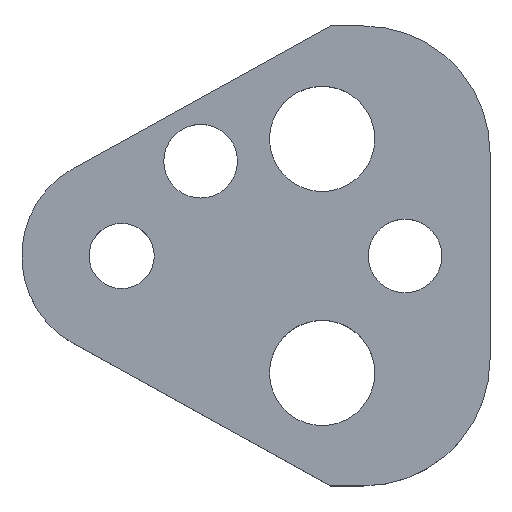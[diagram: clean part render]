
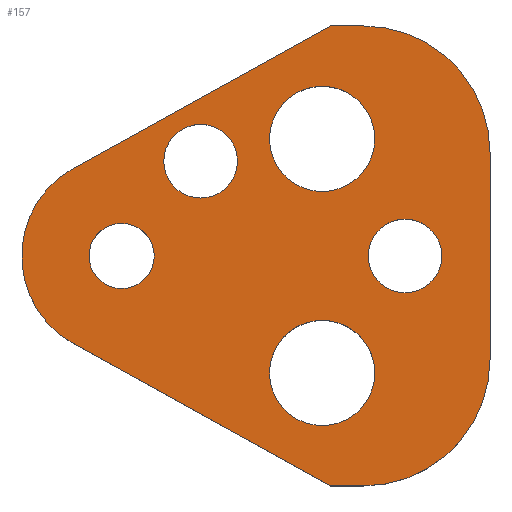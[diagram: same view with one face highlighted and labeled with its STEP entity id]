
A CAD part, top view. The second image highlights one B-rep face of the part: STEP entity #157.
In plain terms, the highlighted planar face has unit normal (0, 0, 1).
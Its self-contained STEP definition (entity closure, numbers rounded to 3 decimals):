
#103=FACE_BOUND('',#207,.T.);
#104=FACE_BOUND('',#208,.T.);
#105=FACE_BOUND('',#209,.T.);
#106=FACE_BOUND('',#210,.T.);
#107=FACE_BOUND('',#211,.T.);
#108=FACE_BOUND('',#212,.T.);
#122=CIRCLE('',#480,12.);
#124=CIRCLE('',#484,12.);
#127=CIRCLE('',#490,9.5);
#138=CIRCLE('',#503,5.);
#139=CIRCLE('',#504,5.);
#140=CIRCLE('',#505,3.5);
#141=CIRCLE('',#506,3.5);
#142=CIRCLE('',#507,5.);
#143=CIRCLE('',#508,5.);
#144=CIRCLE('',#509,3.5);
#145=CIRCLE('',#510,3.5);
#146=CIRCLE('',#511,3.1);
#147=CIRCLE('',#512,3.1);
#157=ADVANCED_FACE('',(#103,#104,#105,#106,#107,#108),#174,.T.);
#174=PLANE('',#513);
#207=EDGE_LOOP('',(#273,#274,#275,#276,#277,#278,#279,#280));
#208=EDGE_LOOP('',(#281,#282));
#209=EDGE_LOOP('',(#283,#284));
#210=EDGE_LOOP('',(#285,#286));
#211=EDGE_LOOP('',(#287,#288));
#212=EDGE_LOOP('',(#289,#290));
#273=ORIENTED_EDGE('',*,*,#368,.T.);
#274=ORIENTED_EDGE('',*,*,#372,.T.);
#275=ORIENTED_EDGE('',*,*,#375,.T.);
#276=ORIENTED_EDGE('',*,*,#378,.T.);
#277=ORIENTED_EDGE('',*,*,#381,.T.);
#278=ORIENTED_EDGE('',*,*,#384,.T.);
#279=ORIENTED_EDGE('',*,*,#387,.T.);
#280=ORIENTED_EDGE('',*,*,#390,.T.);
#281=ORIENTED_EDGE('',*,*,#401,.T.);
#282=ORIENTED_EDGE('',*,*,#402,.T.);
#283=ORIENTED_EDGE('',*,*,#403,.T.);
#284=ORIENTED_EDGE('',*,*,#404,.T.);
#285=ORIENTED_EDGE('',*,*,#405,.T.);
#286=ORIENTED_EDGE('',*,*,#406,.T.);
#287=ORIENTED_EDGE('',*,*,#407,.T.);
#288=ORIENTED_EDGE('',*,*,#408,.T.);
#289=ORIENTED_EDGE('',*,*,#409,.T.);
#290=ORIENTED_EDGE('',*,*,#410,.T.);
#332=VERTEX_POINT('',#649);
#333=VERTEX_POINT('',#651);
#336=VERTEX_POINT('',#658);
#338=VERTEX_POINT('',#664);
#340=VERTEX_POINT('',#670);
#342=VERTEX_POINT('',#676);
#344=VERTEX_POINT('',#682);
#346=VERTEX_POINT('',#688);
#357=VERTEX_POINT('',#717);
#358=VERTEX_POINT('',#718);
#359=VERTEX_POINT('',#721);
#360=VERTEX_POINT('',#722);
#361=VERTEX_POINT('',#725);
#362=VERTEX_POINT('',#726);
#363=VERTEX_POINT('',#729);
#364=VERTEX_POINT('',#730);
#365=VERTEX_POINT('',#733);
#366=VERTEX_POINT('',#734);
#368=EDGE_CURVE('',#333,#332,#422,.T.);
#372=EDGE_CURVE('',#332,#336,#426,.T.);
#375=EDGE_CURVE('',#336,#338,#122,.T.);
#378=EDGE_CURVE('',#338,#340,#430,.T.);
#381=EDGE_CURVE('',#340,#342,#124,.T.);
#384=EDGE_CURVE('',#342,#344,#434,.T.);
#387=EDGE_CURVE('',#344,#346,#437,.T.);
#390=EDGE_CURVE('',#346,#333,#127,.T.);
#401=EDGE_CURVE('',#357,#358,#138,.T.);
#402=EDGE_CURVE('',#358,#357,#139,.T.);
#403=EDGE_CURVE('',#359,#360,#140,.T.);
#404=EDGE_CURVE('',#360,#359,#141,.T.);
#405=EDGE_CURVE('',#361,#362,#142,.T.);
#406=EDGE_CURVE('',#362,#361,#143,.T.);
#407=EDGE_CURVE('',#363,#364,#144,.T.);
#408=EDGE_CURVE('',#364,#363,#145,.T.);
#409=EDGE_CURVE('',#365,#366,#146,.T.);
#410=EDGE_CURVE('',#366,#365,#147,.T.);
#422=LINE('',#650,#450);
#426=LINE('',#659,#454);
#430=LINE('',#671,#458);
#434=LINE('',#683,#462);
#437=LINE('',#689,#465);
#450=VECTOR('',#527,1.);
#454=VECTOR('',#533,1.);
#458=VECTOR('',#545,1.);
#462=VECTOR('',#557,1.);
#465=VECTOR('',#562,1.);
#480=AXIS2_PLACEMENT_3D('',#665,#538,#539);
#484=AXIS2_PLACEMENT_3D('',#677,#550,#551);
#490=AXIS2_PLACEMENT_3D('',#693,#568,#569);
#503=AXIS2_PLACEMENT_3D('',#716,#594,#595);
#504=AXIS2_PLACEMENT_3D('',#719,#596,#597);
#505=AXIS2_PLACEMENT_3D('',#720,#598,#599);
#506=AXIS2_PLACEMENT_3D('',#723,#600,#601);
#507=AXIS2_PLACEMENT_3D('',#724,#602,#603);
#508=AXIS2_PLACEMENT_3D('',#727,#604,#605);
#509=AXIS2_PLACEMENT_3D('',#728,#606,#607);
#510=AXIS2_PLACEMENT_3D('',#731,#608,#609);
#511=AXIS2_PLACEMENT_3D('',#732,#610,#611);
#512=AXIS2_PLACEMENT_3D('',#735,#612,#613);
#513=AXIS2_PLACEMENT_3D('',#736,#614,#615);
#527=DIRECTION('',(0.875,-0.485,0.));
#533=DIRECTION('',(1.,0.,0.));
#538=DIRECTION('',(0.,0.,1.));
#539=DIRECTION('',(-0.707,0.707,0.));
#545=DIRECTION('',(0.,1.,0.));
#550=DIRECTION('',(0.,0.,1.));
#551=DIRECTION('',(-0.707,-0.707,0.));
#557=DIRECTION('',(-1.,0.,0.));
#562=DIRECTION('',(-0.875,-0.485,0.));
#568=DIRECTION('',(0.,0.,1.));
#569=DIRECTION('',(1.,0.,0.));
#594=DIRECTION('',(0.,0.,-1.));
#595=DIRECTION('',(-1.,0.,0.));
#596=DIRECTION('',(0.,0.,-1.));
#597=DIRECTION('',(1.,0.,0.));
#598=DIRECTION('',(0.,0.,-1.));
#599=DIRECTION('',(-1.,0.,0.));
#600=DIRECTION('',(0.,0.,-1.));
#601=DIRECTION('',(1.,0.,0.));
#602=DIRECTION('',(0.,0.,-1.));
#603=DIRECTION('',(-1.,0.,0.));
#604=DIRECTION('',(0.,0.,-1.));
#605=DIRECTION('',(1.,0.,0.));
#606=DIRECTION('',(0.,0.,-1.));
#607=DIRECTION('',(-1.,0.,0.));
#608=DIRECTION('',(0.,0.,-1.));
#609=DIRECTION('',(1.,0.,0.));
#610=DIRECTION('',(0.,0.,-1.));
#611=DIRECTION('',(-1.,0.,0.));
#612=DIRECTION('',(0.,0.,-1.));
#613=DIRECTION('',(1.,0.,0.));
#614=DIRECTION('',(0.,0.,1.));
#615=DIRECTION('',(-0.875,0.485,0.));
#649=CARTESIAN_POINT('',(19.823,-21.85,5.));
#650=CARTESIAN_POINT('',(19.823,-21.85,5.));
#651=CARTESIAN_POINT('',(-4.606,-8.309,5.));
#658=CARTESIAN_POINT('',(23.,-21.85,5.));
#659=CARTESIAN_POINT('',(19.823,-21.85,5.));
#664=CARTESIAN_POINT('',(35.,-9.85,5.));
#665=CARTESIAN_POINT('',(23.,-9.85,5.));
#670=CARTESIAN_POINT('',(35.,9.85,5.));
#671=CARTESIAN_POINT('',(35.,9.85,5.));
#676=CARTESIAN_POINT('',(23.,21.85,5.));
#677=CARTESIAN_POINT('',(23.,9.85,5.));
#682=CARTESIAN_POINT('',(19.823,21.85,5.));
#683=CARTESIAN_POINT('',(19.823,21.85,5.));
#688=CARTESIAN_POINT('',(-4.606,8.309,5.));
#689=CARTESIAN_POINT('',(19.823,21.85,5.));
#693=CARTESIAN_POINT('',(0.,0.,5.));
#716=CARTESIAN_POINT('',(19.05,-11.12,5.));
#717=CARTESIAN_POINT('',(19.05,-6.12,5.));
#718=CARTESIAN_POINT('',(19.05,-16.12,5.));
#719=CARTESIAN_POINT('',(19.05,-11.12,5.));
#720=CARTESIAN_POINT('',(26.925,0.,5.));
#721=CARTESIAN_POINT('',(26.925,3.5,5.));
#722=CARTESIAN_POINT('',(26.925,-3.5,5.));
#723=CARTESIAN_POINT('',(26.925,0.,5.));
#724=CARTESIAN_POINT('',(19.05,11.12,5.));
#725=CARTESIAN_POINT('',(19.05,16.12,5.));
#726=CARTESIAN_POINT('',(19.05,6.12,5.));
#727=CARTESIAN_POINT('',(19.05,11.12,5.));
#728=CARTESIAN_POINT('',(7.5,9.,5.));
#729=CARTESIAN_POINT('',(7.5,12.5,5.));
#730=CARTESIAN_POINT('',(7.5,5.5,5.));
#731=CARTESIAN_POINT('',(7.5,9.,5.));
#732=CARTESIAN_POINT('',(0.,0.,5.));
#733=CARTESIAN_POINT('',(0.,3.1,5.));
#734=CARTESIAN_POINT('',(0.,-3.1,5.));
#735=CARTESIAN_POINT('',(0.,0.,5.));
#736=CARTESIAN_POINT('',(-4.606,-8.309,5.));
